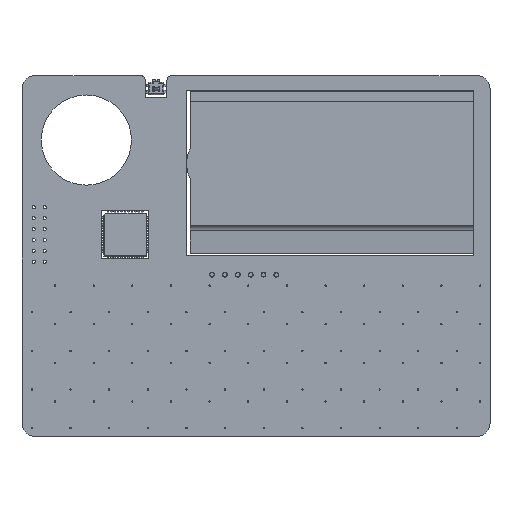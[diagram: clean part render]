
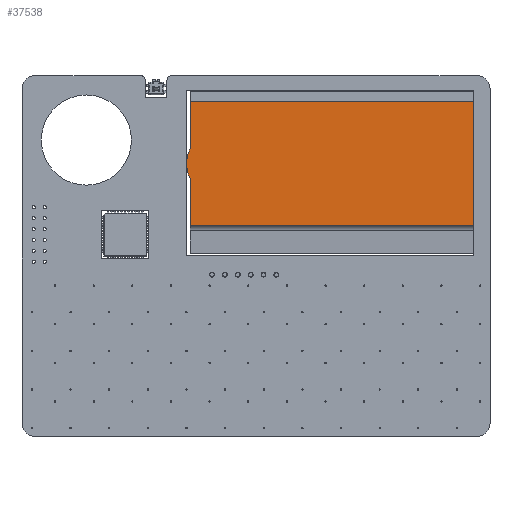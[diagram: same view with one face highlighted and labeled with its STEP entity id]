
A CAD part, top view. The second image highlights one B-rep face of the part: STEP entity #37538.
In plain terms, the highlighted planar face has unit normal (0, 0, 1).
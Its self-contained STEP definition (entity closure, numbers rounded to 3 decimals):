
#37398 = VERTEX_POINT('',#37399);
#37399 = CARTESIAN_POINT('',(33.,1.499,2.));
#37405 = EDGE_CURVE('',#37398,#37406,#37408,.T.);
#37406 = VERTEX_POINT('',#37407);
#37407 = CARTESIAN_POINT('',(33.,-5.499,2.));
#37408 = CIRCLE('',#37409,8.057);
#37409 = AXIS2_PLACEMENT_3D('',#37410,#37411,#37412);
#37410 = CARTESIAN_POINT('',(25.743,-2.,2.));
#37411 = DIRECTION('',(0.,0.,-1.));
#37412 = DIRECTION('',(0.,-1.,0.));
#37429 = EDGE_CURVE('',#37430,#37406,#37432,.T.);
#37430 = VERTEX_POINT('',#37431);
#37431 = CARTESIAN_POINT('',(33.,-16.5,2.));
#37432 = LINE('',#37433,#37434);
#37433 = CARTESIAN_POINT('',(33.,-2.,2.));
#37434 = VECTOR('',#37435,1.);
#37435 = DIRECTION('',(0.,1.,0.));
#37455 = EDGE_CURVE('',#37456,#37430,#37458,.T.);
#37456 = VERTEX_POINT('',#37457);
#37457 = CARTESIAN_POINT('',(-33.,-16.5,2.));
#37458 = LINE('',#37459,#37460);
#37459 = CARTESIAN_POINT('',(0.,-16.5,2.));
#37460 = VECTOR('',#37461,1.);
#37461 = DIRECTION('',(1.,0.,0.));
#37479 = EDGE_CURVE('',#37480,#37456,#37482,.T.);
#37480 = VERTEX_POINT('',#37481);
#37481 = CARTESIAN_POINT('',(-33.,12.5,2.));
#37482 = LINE('',#37483,#37484);
#37483 = CARTESIAN_POINT('',(-33.,-2.,2.));
#37484 = VECTOR('',#37485,1.);
#37485 = DIRECTION('',(0.,-1.,0.));
#37503 = EDGE_CURVE('',#37504,#37480,#37506,.T.);
#37504 = VERTEX_POINT('',#37505);
#37505 = CARTESIAN_POINT('',(33.,12.5,2.));
#37506 = LINE('',#37507,#37508);
#37507 = CARTESIAN_POINT('',(0.,12.5,2.));
#37508 = VECTOR('',#37509,1.);
#37509 = DIRECTION('',(-1.,0.,0.));
#37527 = EDGE_CURVE('',#37398,#37504,#37528,.T.);
#37528 = LINE('',#37529,#37530);
#37529 = CARTESIAN_POINT('',(33.,-2.,2.));
#37530 = VECTOR('',#37531,1.);
#37531 = DIRECTION('',(0.,1.,0.));
#37538 = ADVANCED_FACE('',(#37539),#37547,.T.);
#37539 = FACE_BOUND('',#37540,.T.);
#37540 = EDGE_LOOP('',(#37541,#37542,#37543,#37544,#37545,#37546));
#37541 = ORIENTED_EDGE('',*,*,#37429,.T.);
#37542 = ORIENTED_EDGE('',*,*,#37405,.F.);
#37543 = ORIENTED_EDGE('',*,*,#37527,.T.);
#37544 = ORIENTED_EDGE('',*,*,#37503,.T.);
#37545 = ORIENTED_EDGE('',*,*,#37479,.T.);
#37546 = ORIENTED_EDGE('',*,*,#37455,.T.);
#37547 = PLANE('',#37548);
#37548 = AXIS2_PLACEMENT_3D('',#37549,#37550,#37551);
#37549 = CARTESIAN_POINT('',(0.,-2.,2.));
#37550 = DIRECTION('',(0.,0.,1.));
#37551 = DIRECTION('',(0.,-1.,0.));
